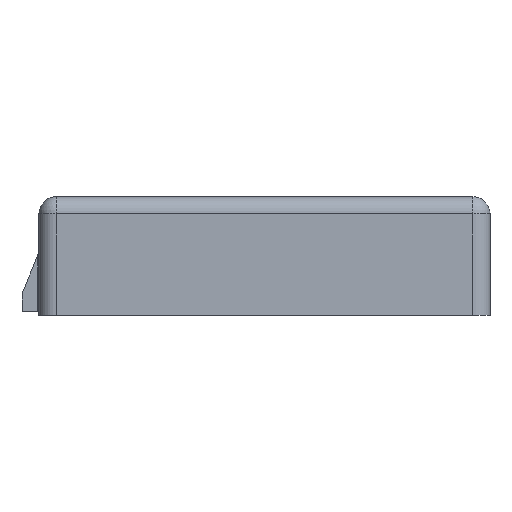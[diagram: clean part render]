
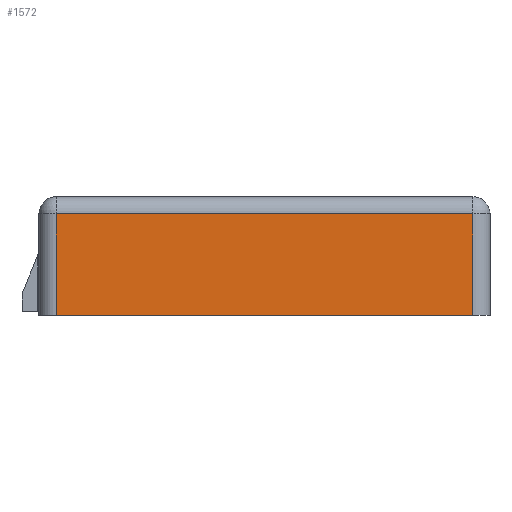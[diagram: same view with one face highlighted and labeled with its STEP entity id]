
A CAD part, front view. The second image highlights one B-rep face of the part: STEP entity #1572.
In plain terms, the highlighted planar face has unit normal (0, -1, 0).
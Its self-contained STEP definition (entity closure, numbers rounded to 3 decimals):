
#1337 = VERTEX_POINT ( 'NONE', #13773 ) ;
#1572 = ADVANCED_FACE ( 'NONE', ( #3372 ), #8906, .F. ) ;
#1575 = DIRECTION ( 'NONE',  ( -1., 0., 0. ) ) ;
#2021 = CARTESIAN_POINT ( 'NONE',  ( 0., 0., 12. ) ) ;
#2162 = VERTEX_POINT ( 'NONE', #14818 ) ;
#2333 = LINE ( 'NONE', #5098, #6999 ) ;
#2544 = DIRECTION ( 'NONE',  ( 0., 0., -1. ) ) ;
#3372 = FACE_OUTER_BOUND ( 'NONE', #12448, .T. ) ;
#3882 = LINE ( 'NONE', #11299, #5494 ) ;
#3942 = ORIENTED_EDGE ( 'NONE', *, *, #4387, .F. ) ;
#4178 = ORIENTED_EDGE ( 'NONE', *, *, #14630, .T. ) ;
#4355 = LINE ( 'NONE', #5913, #9547 ) ;
#4387 = EDGE_CURVE ( 'NONE', #7023, #12262, #3882, .T. ) ;
#5098 = CARTESIAN_POINT ( 'NONE',  ( 0., 0., 9. ) ) ;
#5367 = VECTOR ( 'NONE', #6260, 1000. ) ;
#5494 = VECTOR ( 'NONE', #11248, 1000. ) ;
#5913 = CARTESIAN_POINT ( 'NONE',  ( 3., 0., 12. ) ) ;
#6260 = DIRECTION ( 'NONE',  ( 0., 0., 1. ) ) ;
#6623 = DIRECTION ( 'NONE',  ( 1., 0., 0. ) ) ;
#6999 = VECTOR ( 'NONE', #1575, 1000. ) ;
#7023 = VERTEX_POINT ( 'NONE', #11920 ) ;
#7217 = ORIENTED_EDGE ( 'NONE', *, *, #13041, .T. ) ;
#8906 = PLANE ( 'NONE',  #11678 ) ;
#9547 = VECTOR ( 'NONE', #2544, 1000. ) ;
#11248 = DIRECTION ( 'NONE',  ( -1., 0., 0. ) ) ;
#11299 = CARTESIAN_POINT ( 'NONE',  ( 0., 0., -8.625 ) ) ;
#11678 = AXIS2_PLACEMENT_3D ( 'NONE', #2021, #13536, #6623 ) ;
#11920 = CARTESIAN_POINT ( 'NONE',  ( 75.35, 0., -8.625 ) ) ;
#12262 = VERTEX_POINT ( 'NONE', #13430 ) ;
#12395 = LINE ( 'NONE', #13310, #5367 ) ;
#12448 = EDGE_LOOP ( 'NONE', ( #4178, #14822, #7217, #3942 ) ) ;
#13041 = EDGE_CURVE ( 'NONE', #1337, #12262, #4355, .T. ) ;
#13310 = CARTESIAN_POINT ( 'NONE',  ( 75.35, 0., 12. ) ) ;
#13430 = CARTESIAN_POINT ( 'NONE',  ( 3., 0., -8.625 ) ) ;
#13536 = DIRECTION ( 'NONE',  ( 0., 1., 0. ) ) ;
#13773 = CARTESIAN_POINT ( 'NONE',  ( 3., 0., 9. ) ) ;
#13822 = EDGE_CURVE ( 'NONE', #2162, #1337, #2333, .T. ) ;
#14630 = EDGE_CURVE ( 'NONE', #7023, #2162, #12395, .T. ) ;
#14818 = CARTESIAN_POINT ( 'NONE',  ( 75.35, 0., 9. ) ) ;
#14822 = ORIENTED_EDGE ( 'NONE', *, *, #13822, .T. ) ;
